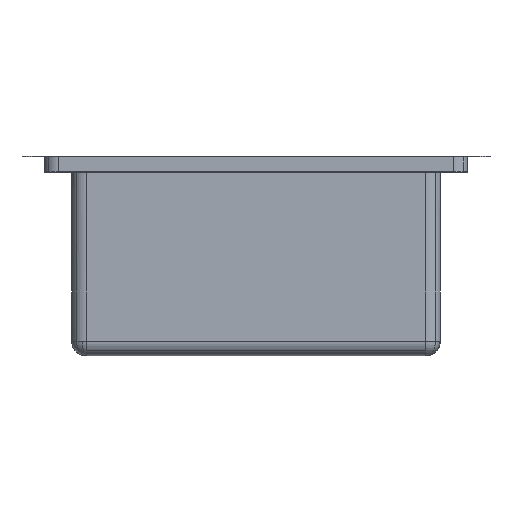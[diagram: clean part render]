
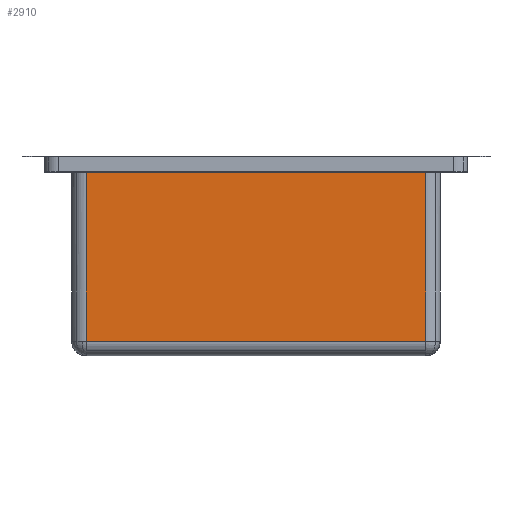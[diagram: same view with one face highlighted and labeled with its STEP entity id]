
A CAD part, left-side view. The second image highlights one B-rep face of the part: STEP entity #2910.
In plain terms, the highlighted planar face has unit normal (-1, 0, 0).
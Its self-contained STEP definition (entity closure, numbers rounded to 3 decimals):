
#2525=CARTESIAN_POINT('Line Origine',(814.,0.,-17.8)) ;
#2529=CARTESIAN_POINT('Vertex',(814.,-185.,-17.8)) ;
#2531=CARTESIAN_POINT('Vertex',(814.,185.,-17.8)) ;
#2818=CARTESIAN_POINT('Vertex',(814.,-185.,-201.8)) ;
#2826=CARTESIAN_POINT('Line Origine',(814.,-185.,-117.8)) ;
#2887=CARTESIAN_POINT('Axis2P3D Location',(814.,185.,-17.8)) ;
#2892=CARTESIAN_POINT('Line Origine',(814.,0.,-201.8)) ;
#2896=CARTESIAN_POINT('Vertex',(814.,185.,-201.8)) ;
#2899=CARTESIAN_POINT('Line Origine',(814.,185.,-109.8)) ;
#2526=DIRECTION('Vector Direction',(0.,-1.,0.)) ;
#2827=DIRECTION('Vector Direction',(0.,0.,-1.)) ;
#2888=DIRECTION('Axis2P3D Direction',(1.,0.,0.)) ;
#2889=DIRECTION('Axis2P3D XDirection',(0.,-1.,0.)) ;
#2893=DIRECTION('Vector Direction',(0.,-1.,0.)) ;
#2900=DIRECTION('Vector Direction',(0.,0.,1.)) ;
#2890=AXIS2_PLACEMENT_3D('Plane Axis2P3D',#2887,#2888,#2889) ;
#2905=ORIENTED_EDGE('',*,*,#2898,.F.) ;
#2906=ORIENTED_EDGE('',*,*,#2830,.F.) ;
#2907=ORIENTED_EDGE('',*,*,#2533,.T.) ;
#2908=ORIENTED_EDGE('',*,*,#2903,.T.) ;
#2527=VECTOR('Line Direction',#2526,1.) ;
#2828=VECTOR('Line Direction',#2827,1.) ;
#2894=VECTOR('Line Direction',#2893,1.) ;
#2901=VECTOR('Line Direction',#2900,1.) ;
#2910=ADVANCED_FACE('Vasca-CTP.2',(#2909),#2891,.F.) ;
#2533=EDGE_CURVE('',#2530,#2532,#2528,.F.) ;
#2830=EDGE_CURVE('',#2530,#2819,#2829,.T.) ;
#2898=EDGE_CURVE('',#2819,#2897,#2895,.F.) ;
#2903=EDGE_CURVE('',#2532,#2897,#2902,.F.) ;
#2904=EDGE_LOOP('',(#2905,#2906,#2907,#2908)) ;
#2909=FACE_OUTER_BOUND('',#2904,.T.) ;
#2528=LINE('Line',#2525,#2527) ;
#2829=LINE('Line',#2826,#2828) ;
#2895=LINE('Line',#2892,#2894) ;
#2902=LINE('Line',#2899,#2901) ;
#2891=PLANE('',#2890) ;
#2530=VERTEX_POINT('',#2529) ;
#2532=VERTEX_POINT('',#2531) ;
#2819=VERTEX_POINT('',#2818) ;
#2897=VERTEX_POINT('',#2896) ;
